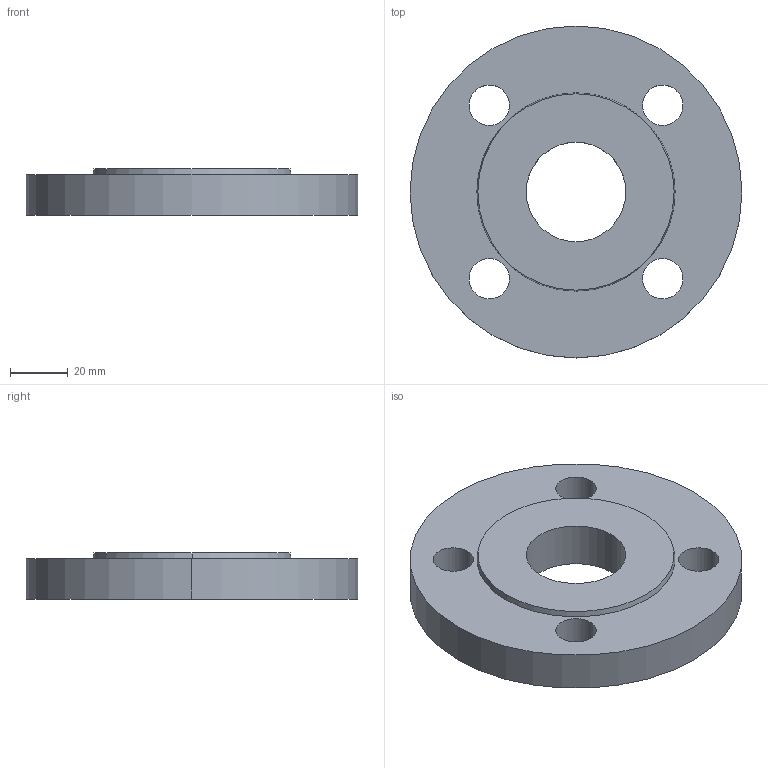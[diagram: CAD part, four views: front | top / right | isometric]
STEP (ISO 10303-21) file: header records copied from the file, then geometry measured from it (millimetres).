
FILE_DESCRIPTION (( 'STEP AP214' ), '1' );
FILE_NAME ('PN40 DN25 Type 01 - Type B Face.STEP', '2018-12-29T20:39:45', ( '' ), ( '' ), 'SwSTEP 2.0', 'SolidWorks 2019', '' );
FILE_SCHEMA (( 'AUTOMOTIVE_DESIGN' ));
Length unit declared in the file: millimetre
Products named in the file (1): PN40 DN25 Type 01 - Type B Face
Bounding box: 115 x 115 x 16 mm (x, y, z)
Volume: 129177.8 mm3; surface area: 27288.1 mm2
Topology: 1 solids, 1 shells, 17 faces, 42 edges, 28 vertices
Faces by surface type: cylinder 12, plane 3, cone 2
Entity records: 578 total; most frequent: DIRECTION 106, CARTESIAN_POINT 88, ORIENTED_EDGE 84, AXIS2_PLACEMENT_3D 46, EDGE_CURVE 42, CIRCLE 28, VERTEX_POINT 28, EDGE_LOOP 28
